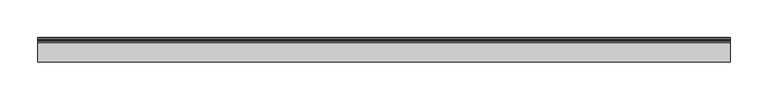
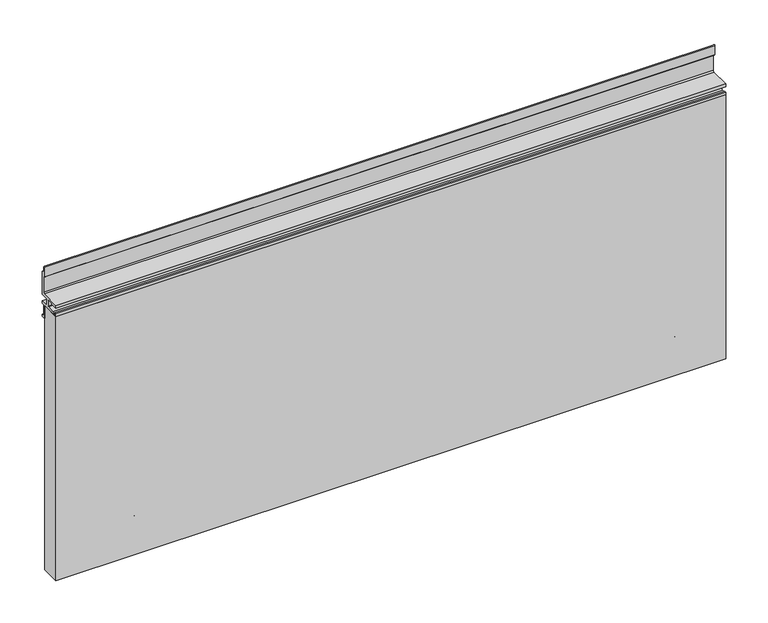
"""IFC4 building model written with IfcOpenShell, lengths in millimetres: furniture geometry, Geiger_GeigerOneCasegoods_WallTileAcceptsShelfandTileAboveFabr : 36Wx 1.25Dx 15H."""

import ifcopenshell
import ifcopenshell.guid

model = None  # the IFC model being written
_history = None  # IfcOwnerHistory: only IFC2X3 demands one
_inside = {}  # id of a spatial element -> (the spatial element, [elements in it])
_under = {}  # id of a project, library or spatial element -> (it, [spatial elements below it])
_declared = {}  # id of a project -> (the project, [libraries it declares])
_typed = {}  # id of a type object -> (the type object, [elements of that type])
_made_of = {}  # id of a material, layer set ... -> (it, [elements and type objects made of it])


def new_model(schema):
    """Start an empty IFC model of exactly this schema.

    Asked for "IFC4X3", IfcOpenShell would pick the latest addendum, in which some entities
    have other attributes; the version numbers below select the first issue.
    IFC2X3 requires an IfcOwnerHistory on every rooted entity: one is made here for all.
    """
    global model, _history
    if schema == "IFC4X3":
        model = ifcopenshell.file(schema_version=(4, 3, 0, 0))
    else:
        model = ifcopenshell.file(schema=schema)
    _inside.clear()
    _under.clear()
    _declared.clear()
    _typed.clear()
    _made_of.clear()
    _history = None
    if model.schema == "IFC2X3":
        org = make("IfcOrganization", Name="unknown")
        user = make(
            "IfcPersonAndOrganization",
            ThePerson=make("IfcPerson", FamilyName="unknown"),
            TheOrganization=org,
        )
        app = make(
            "IfcApplication",
            ApplicationDeveloper=org,
            Version="unknown",
            ApplicationFullName="unknown",
            ApplicationIdentifier="unknown",
        )
        _history = make(
            "IfcOwnerHistory",
            OwningUser=user,
            OwningApplication=app,
            ChangeAction="ADDED",
            CreationDate=0,
        )
    return model


def make(cls, **values):
    """One entity of the class cls with the attributes given. An attribute that is None is left unset."""
    return model.create_entity(
        cls, **{name: value for name, value in values.items() if value is not None}
    )


def rooted(cls, **values):
    """An entity with a GlobalId (a new one), such as an element, a storey or a relation."""
    return make(cls, GlobalId=ifcopenshell.guid.new(), OwnerHistory=_history, **values)


def si_unit(unit_type, name, prefix=None):
    """IfcSIUnit, for example si_unit("LENGTHUNIT", "METRE", prefix="MILLI")."""
    return make("IfcSIUnit", UnitType=unit_type, Prefix=prefix, Name=name)


def assignment(units):
    """IfcUnitAssignment: the units of a project."""
    return None if units is None else make("IfcUnitAssignment", Units=units)


def point(xyz):
    """IfcCartesianPoint."""
    return None if xyz is None else make("IfcCartesianPoint", Coordinates=xyz)


def direction(xyz):
    """IfcDirection."""
    return None if xyz is None else make("IfcDirection", DirectionRatios=xyz)


def frame(location, z_axis=None, x_axis=None):
    """IfcAxis2Placement3D, a coordinate frame: its origin and axes. An axis left out is left unset."""
    return make(
        "IfcAxis2Placement3D",
        Location=point(location),
        Axis=direction(z_axis),
        RefDirection=direction(x_axis),
    )


def frame_2d(location, x_axis=None):
    """IfcAxis2Placement2D, a coordinate frame in the plane: its origin and x axis."""
    return make(
        "IfcAxis2Placement2D", Location=point(location), RefDirection=direction(x_axis)
    )


def origin():
    """The frame at (0, 0, 0) with its axes left unset."""
    return frame((0.0, 0.0, 0.0))


def origin_with_axes():
    """The frame at (0, 0, 0) with the z axis (0, 0, 1) and the x axis (1, 0, 0) written out."""
    return frame((0.0, 0.0, 0.0), z_axis=(0.0, 0.0, 1.0), x_axis=(1.0, 0.0, 0.0))


def place(relative_to, where):
    """IfcLocalPlacement: puts the frame where relative to a parent placement (None: the world)."""
    return make(
        "IfcLocalPlacement", PlacementRelTo=relative_to, RelativePlacement=where
    )


def context(
    kind, dimensions, precision=None, world=None, true_north=None, identifier=None
):
    """IfcGeometricRepresentationContext, for example the 3D "Model" context."""
    return make(
        "IfcGeometricRepresentationContext",
        ContextIdentifier=identifier,
        ContextType=kind,
        CoordinateSpaceDimension=dimensions,
        Precision=precision,
        WorldCoordinateSystem=world,
        TrueNorth=true_north,
    )


def project(units=None, contexts=None):
    """IfcProject with its units and contexts."""
    return rooted(
        "IfcProject",
        Name="project",
        RepresentationContexts=contexts,
        UnitsInContext=assignment(units),
    )


def spatial(cls, under=None, at=None, **own):
    """A site, building, storey or space (cls), placed at a placement, below another one or the project."""
    s = rooted(cls, ObjectPlacement=at, **own)
    if under is not None:
        _under.setdefault(under.id(), (under, []))[1].append(s)
    return s


def polyline(points):
    """IfcPolyline through the points."""
    return make("IfcPolyline", Points=[point(p) for p in points])


def circle_curve(where, radius):
    """IfcCircle in the frame where."""
    return make("IfcCircle", Position=where, Radius=radius)


def trimmed(basis, trim1, trim2, sense, master):
    """IfcTrimmedCurve: the piece of a basis curve between two trims."""
    return make(
        "IfcTrimmedCurve",
        BasisCurve=basis,
        Trim1=trim1,
        Trim2=trim2,
        SenseAgreement=sense,
        MasterRepresentation=master,
    )


def segment(curve, same_sense, transition):
    """IfcCompositeCurveSegment."""
    return make(
        "IfcCompositeCurveSegment",
        Transition=transition,
        SameSense=same_sense,
        ParentCurve=curve,
    )


def composite_curve(segments, self_intersect=None):
    """IfcCompositeCurve: segments joined end to end."""
    return make("IfcCompositeCurve", Segments=segments, SelfIntersect=self_intersect)


def outline(outer, holes=None, kind="AREA"):
    """IfcArbitraryClosedProfileDef: a profile drawn as a closed curve; with holes, ...WithVoids."""
    if holes is None:
        return make("IfcArbitraryClosedProfileDef", ProfileType=kind, OuterCurve=outer)
    return make(
        "IfcArbitraryProfileDefWithVoids",
        ProfileType=kind,
        OuterCurve=outer,
        InnerCurves=holes,
    )


def extrude(swept, where, along, depth):
    """IfcExtrudedAreaSolid: the profile swept, set in the frame where, extruded along a direction by depth."""
    return make(
        "IfcExtrudedAreaSolid",
        SweptArea=swept,
        Position=where,
        ExtrudedDirection=direction(along),
        Depth=depth,
    )


def shape(context_of_items, identifier, shape_type, items):
    """IfcShapeRepresentation: the items that make up one representation, for example the "Body"."""
    return make(
        "IfcShapeRepresentation",
        ContextOfItems=context_of_items,
        RepresentationIdentifier=identifier,
        RepresentationType=shape_type,
        Items=items,
    )


def source(mapping_origin, context_of_items, identifier, shape_type, items):
    """IfcRepresentationMap: a shape defined once, which mapped items show again and again."""
    return make(
        "IfcRepresentationMap",
        MappingOrigin=mapping_origin,
        MappedRepresentation=shape(context_of_items, identifier, shape_type, items),
    )


def transform(
    local_origin,
    x_axis=None,
    y_axis=None,
    z_axis=None,
    scale=None,
    scale2=None,
    scale3=None,
    uniform=True,
):
    """IfcCartesianTransformationOperator3D, or its non-uniform kind. x_axis, y_axis, z_axis: its Axis1, 2, 3."""
    if uniform:
        return make(
            "IfcCartesianTransformationOperator3D",
            Axis1=direction(x_axis),
            Axis2=direction(y_axis),
            LocalOrigin=point(local_origin),
            Scale=scale,
            Axis3=direction(z_axis),
        )
    return make(
        "IfcCartesianTransformationOperator3DnonUniform",
        Axis1=direction(x_axis),
        Axis2=direction(y_axis),
        LocalOrigin=point(local_origin),
        Scale=scale,
        Axis3=direction(z_axis),
        Scale2=scale2,
        Scale3=scale3,
    )


def mapped(mapping_source, mapping_target):
    """IfcMappedItem: shows the shape of a source again, moved by a transform."""
    return make(
        "IfcMappedItem", MappingSource=mapping_source, MappingTarget=mapping_target
    )


def made_of(thing, what):
    """Note that an element or type object is made of a material, layer set ...; save() writes the relation."""
    if what is not None:
        _made_of.setdefault(what.id(), (what, []))[1].append(thing)
    return thing


def element(
    cls,
    number,
    at=None,
    inside=None,
    cuts=None,
    type_object=None,
    material=None,
    context=None,
    identifier="Body",
    shape_type=None,
    held_by="IfcProductDefinitionShape",
    body=None,
    shapes=None,
    **own,
):
    """One element of the class cls, such as IfcWall. Its Tag is "e" and its number.

    at: its placement. inside: the storey or other place that contains it. cuts: it is an
    opening in that element (IfcRelVoidsElement). A single representation is given by context,
    identifier, shape_type and body (its items); several are given by shapes. held_by: the class
    of the entity that holds the representations. save() writes the other relations.
    """
    e = rooted(cls, Tag="e%d" % number, ObjectPlacement=at, **own)
    if body is not None:
        shapes = [shape(context, identifier, shape_type, body)]
    if shapes is not None:
        e.Representation = make(held_by, Representations=shapes)
    if inside is not None:
        _inside.setdefault(inside.id(), (inside, []))[1].append(e)
    if cuts is not None:
        rooted(
            "IfcRelVoidsElement", RelatingBuildingElement=cuts, RelatedOpeningElement=e
        )
    if type_object is not None:
        _typed.setdefault(type_object.id(), (type_object, []))[1].append(e)
    return made_of(e, material)


def aggregate(whole, parts):
    """IfcRelAggregates: a whole, such as a stair, and the parts it consists of."""
    return rooted("IfcRelAggregates", RelatingObject=whole, RelatedObjects=parts)


def save(model, path):
    """Write the relations noted so far, then the file.

    IfcRelAggregates (storeys below a building ...), IfcRelContainedInSpatialStructure (elements
    in a storey), IfcRelDefinesByType, IfcRelAssociatesMaterial and IfcRelDeclares: one each for
    every whole, place, type object, material and project.
    """
    for whole, parts in _under.values():
        aggregate(whole, parts)
    for where, things in _inside.values():
        rooted(
            "IfcRelContainedInSpatialStructure",
            RelatedElements=things,
            RelatingStructure=where,
        )
    for kind, things in _typed.values():
        rooted("IfcRelDefinesByType", RelatedObjects=things, RelatingType=kind)
    for what, things in _made_of.values():
        rooted("IfcRelAssociatesMaterial", RelatedObjects=things, RelatingMaterial=what)
    for by, libraries in _declared.values():
        rooted("IfcRelDeclares", RelatingContext=by, RelatedDefinitions=libraries)
    model.write(path)


def furniture_01d7865a(model_context):
    return source(origin(), model_context, "Body", "SweptSolid", [
        extrude(outline(composite_curve([segment(polyline([(-3.5052, 46.3366), (-2.6924, 45.5238), (-0.8128, 45.5238), (0.0, 44.7364), (0.0, 31.3252)]), True, "CONTINUOUS"), segment(trimmed(circle_curve(frame_2d((-0.8034421, 31.3345579)), 0.8034966), [point((0.0, 31.3252))], [point((-1.3716, 30.7664))], False, "CARTESIAN"), True, "CONTINUOUS"), segment(polyline([(-1.3716, 30.7664), (-2.8956, 32.2904), (-2.8956, 39.2246), (-3.7084, 40.012), (-5.6134, 40.012), (-6.4008, 40.8248), (-6.4008, 72.524), (-5.1054, 72.524), (-3.5052, 70.9238), (-3.5052, 46.3366)]), True, "CONTINUOUS")], self_intersect=False)), frame((788.4, 0.0, 0.0), z_axis=(1.0, 0.0, 0.0), x_axis=(0.0, 1.0, 0.0)), (0.0, 0.0, 1.0), 76.0),
        extrude(outline(composite_curve([segment(polyline([(-2.8956, 32.2904), (-2.8956, 39.2246), (-3.7084, 40.012), (-5.6134, 40.012), (-6.4008, 40.8248), (-6.4008, 72.524), (-5.1054, 72.524), (-3.5052, 70.9238), (-3.5052, 46.3366), (-2.6924, 45.5238), (-0.8128, 45.5238), (0.0, 44.7364), (0.0, 31.3252)]), True, "CONTINUOUS"), segment(trimmed(circle_curve(frame_2d((-0.8034421, 31.3345579)), 0.8034966), [point((0.0, 31.3252))], [point((-1.3716, 30.7664))], False, "CARTESIAN"), True, "CONTINUOUS"), segment(polyline([(-1.3716, 30.7664), (-2.8956, 32.2904)]), True, "CONTINUOUS")], self_intersect=False)), frame((50.0, 0.0, 0.0), z_axis=(1.0, 0.0, 0.0), x_axis=(0.0, 1.0, 0.0)), (0.0, 0.0, 1.0), 76.0),
        extrude(outline(polyline([(914.4, -6.4008), (914.4, -32.4008), (0.0, -32.4008), (0.0, -6.4008), (914.4, -6.4008)])), origin_with_axes(), (0.0, 0.0, 1.0), 381.0),
        extrude(outline(composite_curve([segment(polyline([(-4.4958, 397.002), (-2.8956, 398.6022), (-2.8956, 421.5892), (-3.7084, 422.402), (-5.6134, 422.402), (-6.4008, 423.1894), (-6.4008, 436.6046416)]), True, "CONTINUOUS"), segment(trimmed(circle_curve(frame_2d((-5.6028762, 436.6046416)), 0.7979238), [point((-6.4008, 436.6046416))], [point((-5.0386589, 437.1688589))], False, "CARTESIAN"), True, "CONTINUOUS"), segment(polyline([(-5.0386589, 437.1688589), (-3.5052, 435.6354), (-3.5052, 428.7012), (-2.6924, 427.8884), (-0.8128, 427.8884), (0.0, 427.101), (0.0, 393.8016), (-9.6012, 393.8016), (-10.3886, 392.9888), (-10.3886, 384.9878), (-9.6012, 384.2004), (0.0, 384.2004), (0.0, 381.0), (-2.6924, 381.0), (-3.5052, 380.2126), (-3.5052, 365.7092), (-2.6924, 364.8964), (0.0, 364.8964), (0.0, 362.0008), (-5.6134, 362.0008), (-6.4008, 362.7882), (-6.4008, 381.0), (-32.4008, 381.0), (-32.4008, 384.9878), (-29.8958, 384.9878), (-29.8958, 383.3876), (-24.892, 383.3876), (-14.8082, 384.8608), (-14.4018, 385.572), (-14.4018, 393.8016), (-15.1892, 394.589), (-22.318829, 394.589), (-22.318829, 393.580771), (-22.9108, 392.9888), (-32.4008, 392.9888), (-32.4008, 397.002), (-4.4958, 397.002)]), True, "CONTINUOUS")], self_intersect=False)), frame((0.0, 0.0, 0.0), z_axis=(1.0, 0.0, 0.0), x_axis=(0.0, 1.0, 0.0)), (0.0, 0.0, 1.0), 914.4),
    ])


if __name__ == "__main__":
    model = new_model("IFC4")
    model_context = context("Model", 3, world=origin())
    ifc_project = project(units=[si_unit("LENGTHUNIT", "METRE", prefix="MILLI")], contexts=[model_context])
    site = spatial("IfcSite", under=ifc_project)
    building = spatial("IfcBuilding", under=site)
    placement = place(None, origin())
    furniture_shape = furniture_01d7865a(model_context)
    element("IfcFurniture", 1, ObjectType="Geiger_GeigerOneCasegoods_WallTileAcceptsShelfandTileAboveFabr : 36Wx 1.25Dx 15H", at=placement, inside=building, context=model_context, shape_type="MappedRepresentation", body=[
        mapped(furniture_shape, transform((0.0, 0.0, 0.0), x_axis=(1.0, 0.0, 0.0), y_axis=(0.0, 1.0, 0.0), z_axis=(0.0, 0.0, 1.0))),
    ])
    save(model, "model.ifc")
